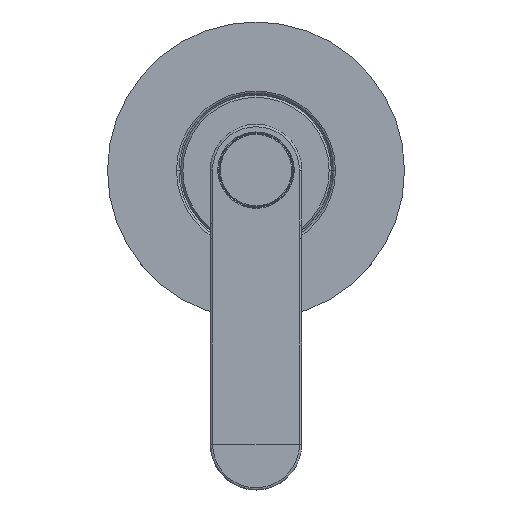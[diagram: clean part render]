
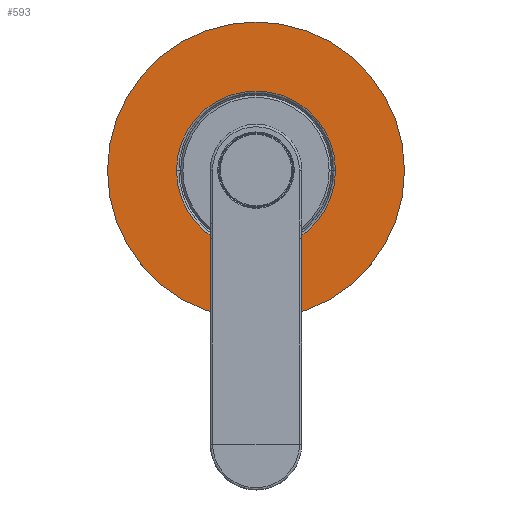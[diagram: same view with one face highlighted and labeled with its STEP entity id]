
A CAD part, top view. The second image highlights one B-rep face of the part: STEP entity #593.
In plain terms, the highlighted planar face has unit normal (0, 0, 1).
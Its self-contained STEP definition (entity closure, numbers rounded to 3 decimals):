
#529=CARTESIAN_POINT('',(17.4,0.0,-26.3));
#530=VERTEX_POINT('',#529);
#539=CARTESIAN_POINT('',(-17.4,0.0,-26.3));
#540=VERTEX_POINT('',#539);
#548=CARTESIAN_POINT('',(0.0,0.0,-26.3));
#549=DIRECTION('',(0.0,0.0,-1.0));
#550=DIRECTION('',(1.0,0.0,0.0));
#551=AXIS2_PLACEMENT_3D('',#548,#549,#550);
#552=CIRCLE('',#551,17.4);
#553=EDGE_CURVE('',#530,#540,#552,.T.);
#558=CARTESIAN_POINT('',(35.75,35.75,-26.3));
#559=DIRECTION('',(0.0,0.0,1.0));
#560=DIRECTION('',(-1.0,0.0,0.0));
#561=AXIS2_PLACEMENT_3D('',#558,#559,#560);
#562=PLANE('',#561);
#563=CARTESIAN_POINT('',(32.5,0.0,-26.3));
#564=VERTEX_POINT('',#563);
#565=CARTESIAN_POINT('',(-32.5,0.0,-26.3));
#566=VERTEX_POINT('',#565);
#567=CARTESIAN_POINT('',(0.0,0.0,-26.3));
#568=DIRECTION('',(0.0,0.0,-1.0));
#569=DIRECTION('',(1.0,0.0,0.0));
#570=AXIS2_PLACEMENT_3D('',#567,#568,#569);
#571=CIRCLE('',#570,32.5);
#572=EDGE_CURVE('',#564,#566,#571,.T.);
#573=ORIENTED_EDGE('',*,*,#572,.F.);
#574=CARTESIAN_POINT('',(0.0,0.0,-26.3));
#575=DIRECTION('',(0.0,0.0,1.0));
#576=DIRECTION('',(1.0,0.0,0.0));
#577=AXIS2_PLACEMENT_3D('',#574,#575,#576);
#578=CIRCLE('',#577,32.5);
#579=EDGE_CURVE('',#564,#566,#578,.T.);
#580=ORIENTED_EDGE('',*,*,#579,.T.);
#581=EDGE_LOOP('',(#573,#580));
#582=FACE_OUTER_BOUND('',#581,.T.);
#583=ORIENTED_EDGE('',*,*,#553,.T.);
#584=CARTESIAN_POINT('',(0.0,0.0,-26.3));
#585=DIRECTION('',(0.0,0.0,-1.0));
#586=DIRECTION('',(-1.0,0.0,0.0));
#587=AXIS2_PLACEMENT_3D('',#584,#585,#586);
#588=CIRCLE('',#587,17.4);
#589=EDGE_CURVE('',#540,#530,#588,.T.);
#590=ORIENTED_EDGE('',*,*,#589,.T.);
#591=EDGE_LOOP('',(#583,#590));
#592=FACE_BOUND('',#591,.T.);
#593=ADVANCED_FACE('',(#582,#592),#562,.T.);
